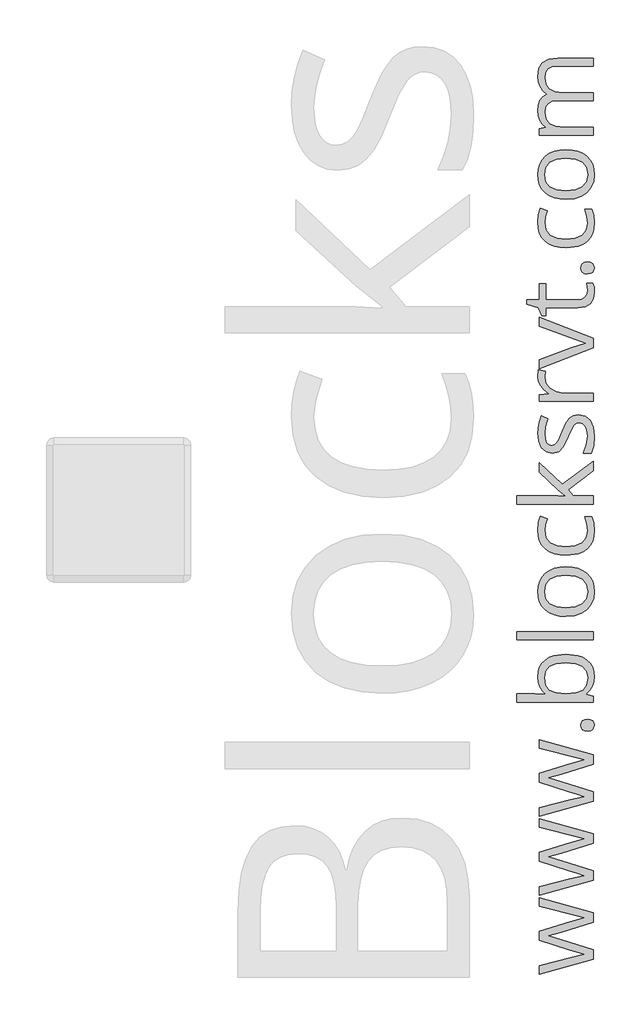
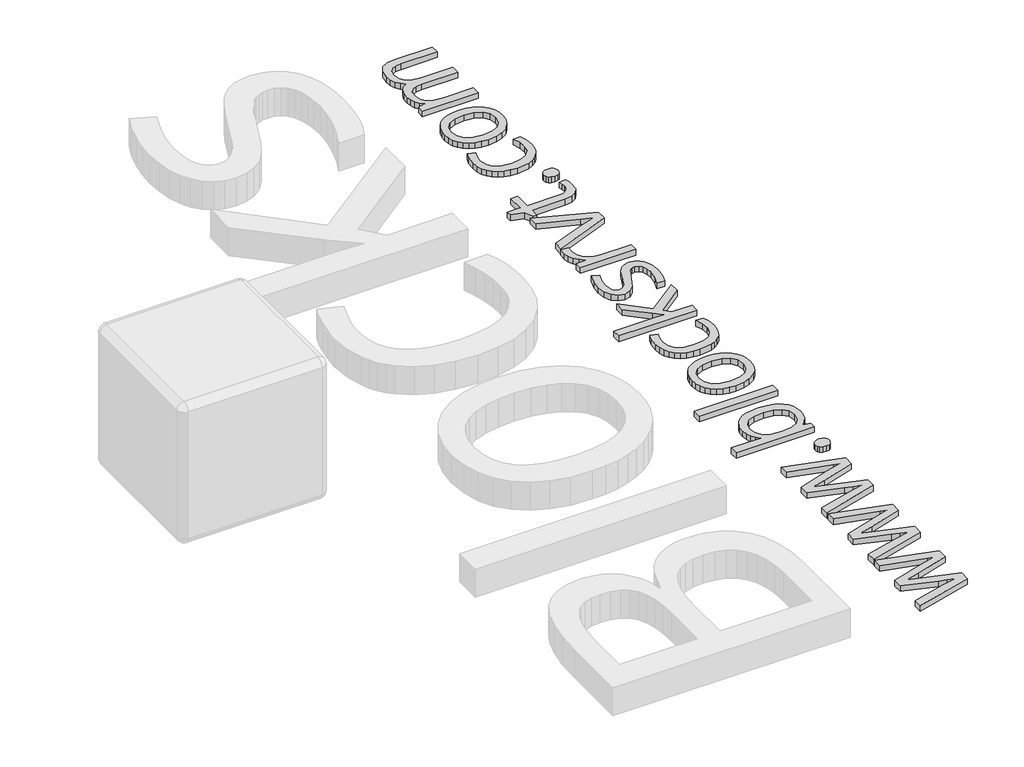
# One storey, part 14 of 14: 1 proxy.
"""IFC4 building model written with IfcOpenShell, lengths in millimetres."""

from ifc_helpers import new_model, si_unit, origin, origin_with_axes, place, context, project, spatial, polyline, outline, extrude, element, save

model = new_model("IFC4")

# Units and contexts
model_context = context("Model", 3, world=origin())
ifc_project = project(units=[si_unit("LENGTHUNIT", "METRE", prefix="MILLI")], contexts=[model_context])

# Site, building, storey
site = spatial("IfcSite", under=ifc_project)
building = spatial("IfcBuilding", under=site)
storey = spatial("IfcBuildingStorey", under=building, Name="PORTOBELLO - SHOWROOM", Elevation=0.0)

# Proxy
placement = place(None, origin())
element("IfcBuildingElementProxy", 1, Name="25mm OpenSans", ObjectType="25mm OpenSans", at=placement, inside=storey, context=model_context, shape_type="SweptSolid", body=[
    extrude(outline(polyline([(205164.8513303, 19114.8445561), (205055.039687, 19080.3644497), (205009.3160675, 19068.1464989), (205055.4144707, 19054.7292401), (205164.8513303, 19019.1997391), (205164.8513303, 18986.2937245), (204977.7592745, 18934.9483486), (204977.7592745, 18964.7811364), (205085.097345, 18992.515135), (205134.7936723, 19003.458821), (205109.6082032, 19010.8795395), (205085.097345, 19018.2253014), (204977.7592745, 19052.7054078), (204977.7592745, 19083.5875901), (205085.1723017, 19117.2431722), (205134.4938453, 19130.2856473), (205115.5297867, 19135.3827065), (204977.7592745, 19171.1370777), (204977.7592745, 19200.6700385), (205164.8513303, 19148.6500518), (205164.8513303, 19114.8445561)])), origin_with_axes(), (0.0, 0.0, 1.0), 20.0),
    extrude(outline(polyline([(205164.8513303, 19388.2867916), (205055.039687, 19353.8066851), (205009.3160675, 19341.5887344), (205055.4144707, 19328.1714755), (205164.8513303, 19292.6419746), (205164.8513303, 19259.7359599), (204977.7592745, 19208.390584), (204977.7592745, 19238.2233718), (205085.097345, 19265.9573705), (205134.7936723, 19276.9010564), (205109.6082032, 19284.321775), (205085.097345, 19291.6675368), (204977.7592745, 19326.1476432), (204977.7592745, 19357.0298255), (205085.1723017, 19390.6854077), (205134.4938453, 19403.7278827), (205115.5297867, 19408.8249419), (204977.7592745, 19444.5793132), (204977.7592745, 19474.1122739), (205164.8513303, 19422.0922872), (205164.8513303, 19388.2867916)])), origin_with_axes(), (0.0, 0.0, 1.0), 20.0),
    extrude(outline(polyline([(205164.8513303, 19661.729027), (205055.039687, 19627.2489205), (205009.3160675, 19615.0309698), (205055.4144707, 19601.613711), (205164.8513303, 19566.08421), (205164.8513303, 19533.1781954), (204977.7592745, 19481.8328195), (204977.7592745, 19511.6656072), (205085.097345, 19539.3996059), (205134.7936723, 19550.3432918), (205109.6082032, 19557.7640104), (205085.097345, 19565.1097722), (204977.7592745, 19599.5898786), (204977.7592745, 19630.4720609), (205085.1723017, 19664.1276431), (205134.4938453, 19677.1701181), (205115.5297867, 19682.2671773), (204977.7592745, 19718.0215486), (204977.7592745, 19747.5545093), (205164.8513303, 19695.5345226), (205164.8513303, 19661.729027)])), origin_with_axes(), (0.0, 0.0, 1.0), 20.0),
    extrude(outline(polyline([(205145.7373582, 19776.7126863), (205135.3277392, 19778.0150599), (205127.7852159, 19781.9221806), (205123.2034843, 19788.2653959), (205121.6762405, 19796.8760529), (205123.2034843, 19805.7396889), (205127.7852159, 19812.3921008), (205135.3277392, 19816.5522006), (205145.7373582, 19817.9389005), (205155.9408463, 19816.5240918), (205163.4646304, 19812.2796656), (205168.1025795, 19805.599145), (205169.6485625, 19796.8760529), (205164.0642844, 19782.4468779), (205156.6904138, 19778.1462342), (205145.7373582, 19776.7126863)])), origin_with_axes(), (0.0, 0.0, 1.0), 20.0),
    extrude(outline(polyline([(204972.9620423, 19965.0790069), (204974.5619005, 19982.6633927), (204979.3614751, 19998.1630438), (204987.3607661, 20011.5779602), (204998.5597735, 20022.9081419), (205012.6820942, 20031.9099795), (205029.4513254, 20038.3398635), (205070.9305186, 20043.4837707), (205112.5502558, 20038.2930155), (205129.4389492, 20031.8045716), (205143.7135259, 20022.7207501), (205155.0601044, 20011.3366932), (205163.1648034, 19997.9475432), (205168.0276227, 19982.5533), (205169.6485625, 19965.1539637), (205167.9339268, 19947.5110179), (205162.7900196, 19931.4609031), (205154.0856666, 19917.4533599), (205141.6896936, 19905.9381287), (205141.6896936, 19903.8393396), (205164.8513303, 19897.8427993), (205164.8513303, 19877.5295192), (204901.0035593, 19877.5295192), (204901.0035593, 19905.8631719), (204963.5924481, 19905.8631719), (205001.3706517, 19904.5139504), (204988.9418851, 19917.0692065), (204980.0641946, 19930.6738572), (204974.7375804, 19946.677124), (204972.9620423, 19965.0790069)]), holes=[polyline([(204996.9482033, 19961.106299), (205001.1832598, 19935.8365036), (205013.8884295, 19918.7932118), (205036.6190649, 19909.0956819), (205070.9305186, 19905.8631719), (205105.3825163, 19909.1893779), (205128.3848699, 19919.1679956), (205141.3430186, 19936.473636), (205145.6624015, 19961.7809098), (205140.8183213, 19984.8582201), (205126.2860808, 20001.1706835), (205102.6840732, 20010.8682135), (205070.6306916, 20014.1007235), (205038.1837871, 20010.8682135), (205015.2001727, 20001.1706835), (205001.5111956, 19984.6895674), (204996.9482033, 19961.106299)])]), origin_with_axes(), (0.0, 0.0, 1.0), 20.0),
    extrude(outline(polyline([(205164.8513303, 20120.7641832), (205164.8513303, 20092.4305305), (204901.0035593, 20092.4305305), (204901.0035593, 20120.7641832), (205164.8513303, 20120.7641832)])), origin_with_axes(), (0.0, 0.0, 1.0), 20.0),
    extrude(outline(polyline([(205071.1553889, 20345.7093993), (205093.0825816, 20344.2688242), (205112.4659295, 20339.9470989), (205129.3054325, 20332.7442234), (205143.6010908, 20322.6601977), (205154.9968597, 20310.0416968), (205163.1366946, 20295.2353957), (205168.0205955, 20278.2412943), (205169.6485625, 20259.0593927), (205166.659662, 20235.3636891), (205157.6929604, 20214.4976029), (205143.1419807, 20197.2669193), (205123.4002458, 20184.4774233), (205099.1704754, 20176.5507467), (205071.1553889, 20173.9085211), (205049.2375658, 20175.3373842), (205029.8823267, 20179.6239736), (205013.0896716, 20186.7682891), (204998.8596005, 20196.7703308), (204987.5294188, 20209.3115326), (204979.4364318, 20224.0733282), (204974.5806397, 20241.0557175), (204972.9620423, 20260.2587007), (204974.618118, 20278.8550027), (204979.5863453, 20295.4415267), (204987.8667242, 20310.0182728), (204999.4592545, 20322.585241), (205013.8767175, 20332.7020602), (205030.6318942, 20339.9283597), (205049.7247847, 20344.2641394), (205071.1553889, 20345.7093993)]), holes=[polyline([(205070.9305186, 20203.3665251), (205103.0869657, 20206.9457101), (205126.5484294, 20217.683265), (205140.8839085, 20235.3543195), (205145.6624015, 20259.7340035), (205140.9026477, 20284.1324266), (205126.6233862, 20301.8596987), (205103.1806617, 20312.6534712), (205070.9305186, 20316.2513953), (205039.0083114, 20312.6534712), (205015.7998267, 20301.8596987), (205001.6611091, 20284.0387307), (204996.9482033, 20259.3592197), (205001.595522, 20235.0263837), (205015.5374781, 20217.4958731), (205038.6803756, 20206.8988621), (205070.9305186, 20203.3665251)])]), origin_with_axes(), (0.0, 0.0, 1.0), 20.0),
    extrude(outline(polyline([(205169.6485625, 20471.1120473), (205168.0627587, 20451.7685202), (205163.3053473, 20434.7392828), (205155.3763282, 20420.0243352), (205144.2757016, 20407.6236774), (205130.2751855, 20397.7856035), (205113.6464983, 20390.7584079), (205072.5046104, 20385.1366515), (205050.0574053, 20386.5631722), (205030.313328, 20390.8427343), (205013.2723787, 20397.9753378), (204998.9345572, 20407.9609828), (204987.5715819, 20420.5841685), (204979.455171, 20435.6293943), (204974.5853245, 20453.0966602), (204972.9620423, 20472.9859661), (204975.7354421, 20500.2327459), (204982.2566797, 20521.5579422), (205005.7181434, 20512.788002), (204999.4592545, 20492.0624598), (204996.9482033, 20472.2363986), (205001.6376852, 20447.018136), (205015.7061308, 20429.0050912), (205039.1535401, 20418.1972644), (205071.9799132, 20414.5946554), (205103.4430103, 20418.1082532), (205126.6233862, 20428.6490466), (205140.9026477, 20446.0858613), (205145.6624015, 20470.287523), (205143.1326111, 20494.2549448), (205135.5432398, 20518.7845423), (205160.2040116, 20518.7845423), (205167.2874248, 20497.3843893), (205169.6485625, 20471.1120473)])), origin_with_axes(), (0.0, 0.0, 1.0), 20.0),
    extrude(outline(polyline([(205071.0054754, 20590.3682415), (205043.1215632, 20613.2300512), (204977.7592745, 20673.1954537), (204977.7592745, 20706.5512089), (205057.5132598, 20631.2946287), (205164.8513303, 20711.7981816), (205164.8513303, 20677.6928589), (205078.5011507, 20612.1056999), (205096.4907714, 20591.1178091), (205164.8513303, 20591.1178091), (205164.8513303, 20563.0839834), (204901.0035593, 20563.0839834), (204901.0035593, 20591.1178091), (205041.9972119, 20591.1178091), (205071.0054754, 20590.3682415)])), origin_with_axes(), (0.0, 0.0, 1.0), 20.0),
    extrude(outline(polyline([(205114.4054354, 20872.0557198), (205137.895008, 20867.1554221), (205155.2943443, 20852.4545288), (205166.0600079, 20828.9087388), (205169.6485625, 20797.4737504), (205166.6877707, 20764.1742128), (205157.8053955, 20739.0824397), (205131.2707049, 20739.0824397), (205141.8021287, 20768.2406167), (205145.6624015, 20798.223318), (205143.8821786, 20818.0400096), (205138.5415099, 20832.665946), (205129.5466996, 20841.6888652), (205116.8040515, 20844.6965049), (205106.5162372, 20842.3072584), (205097.839993, 20835.1395189), (205079.2507182, 20797.9234909), (205062.010665, 20760.5200711), (205045.3327874, 20743.9921071), (205022.9581966, 20738.5577425), (205002.2326544, 20743.2425395), (204986.3793011, 20757.2969307), (204976.316357, 20779.5216081), (204972.9620423, 20808.7172634), (204976.0727475, 20838.7561822), (204985.4048633, 20868.1579686), (205008.5665, 20857.9638502), (204999.8527775, 20830.9044623), (204996.9482033, 20806.5435176), (204998.5504039, 20788.7225495), (205003.3570057, 20775.8862055), (205010.9932249, 20768.1281816), (205021.0842778, 20765.5421736), (205034.0892745, 20769.4024464), (205044.2833929, 20781.8827458), (205058.3377841, 20814.9386739), (205070.66817, 20843.0193475), (205083.0735126, 20860.2500312), (205097.1279038, 20869.1042976), (205114.4054354, 20872.0557198)])), origin_with_axes(), (0.0, 0.0, 1.0), 20.0),
    extrude(outline(polyline([(204972.9620423, 21004.5043026), (204974.8359611, 21027.141242), (204999.4967329, 21023.1685341), (204996.9482033, 21002.4804702), (205001.6423699, 20981.1459044), (205015.7248699, 20963.1656532), (205036.8158264, 20950.9383329), (205062.5353623, 20946.8625594), (205164.8513303, 20946.8625594), (205164.8513303, 20918.5289067), (204977.7592745, 20918.5289067), (204977.7592745, 20941.9154137), (205011.3398999, 20945.1385541), (204995.0180669, 20958.1248116), (204982.9312904, 20971.898115), (204975.4543543, 20987.4703804), (204972.9620423, 21004.5043026)])), origin_with_axes(), (0.0, 0.0, 1.0), 20.0),
    extrude(outline(polyline([(205164.8513303, 21104.1218275), (204977.7592745, 21032.1633445), (204977.7592745, 21062.97057), (205088.6952691, 21103.8220005), (205139.2161207, 21120.0126591), (205101.7377442, 21133.429918), (204977.7592745, 21178.8537104), (204977.7592745, 21209.6609359), (205164.8513303, 21137.7024529), (205164.8513303, 21104.1218275)])), origin_with_axes(), (0.0, 0.0, 1.0), 20.0),
    extrude(outline(polyline([(205145.6624015, 21301.033218), (205144.5380502, 21315.7247416), (205142.2143909, 21326.9682545), (205164.4015898, 21326.9682545), (205168.1494274, 21313.2511687), (205169.6485625, 21296.9855533), (205166.0881167, 21272.9806531), (205155.4067794, 21255.8342958), (205137.6045505, 21245.5464815), (205112.6814301, 21242.11721), (205001.7454355, 21242.11721), (205001.7454355, 21214.9828654), (204987.7285226, 21214.9828654), (204975.5855286, 21241.9672965), (204934.5841847, 21254.0353337), (204934.5841847, 21270.5258194), (204977.7592745, 21270.5258194), (204977.7592745, 21325.619033), (205001.7454355, 21325.619033), (205001.7454355, 21270.5258194), (205110.9574248, 21270.5258194), (205125.7894923, 21272.5590214), (205136.7050695, 21278.6586272), (205143.4230685, 21288.3186787), (205145.6624015, 21301.033218)])), origin_with_axes(), (0.0, 0.0, 1.0), 20.0),
    extrude(outline(polyline([(205145.7373582, 21359.7993124), (205135.3277392, 21361.101686), (205127.7852159, 21365.0088068), (205123.2034843, 21371.352022), (205121.6762405, 21379.962679), (205123.2034843, 21388.8263151), (205127.7852159, 21395.4787269), (205135.3277392, 21399.6388267), (205145.7373582, 21401.0255266), (205155.9408463, 21399.6107179), (205163.4646304, 21395.3662918), (205168.1025795, 21388.6857712), (205169.6485625, 21379.962679), (205164.0642844, 21365.533504), (205156.6904138, 21361.2328603), (205145.7373582, 21359.7993124)])), origin_with_axes(), (0.0, 0.0, 1.0), 20.0),
    extrude(outline(polyline([(205169.6485625, 21536.0975958), (205168.0627587, 21516.7540687), (205163.3053473, 21499.7248313), (205155.3763282, 21485.0098837), (205144.2757016, 21472.6092259), (205130.2751855, 21462.771152), (205113.6464983, 21455.7439564), (205072.5046104, 21450.1221999), (205050.0574053, 21451.5487206), (205030.313328, 21455.8282828), (205013.2723787, 21462.9608863), (204998.9345572, 21472.9465313), (204987.5715819, 21485.569717), (204979.455171, 21500.6149428), (204974.5853245, 21518.0822086), (204972.9620423, 21537.9715146), (204975.7354421, 21565.2182944), (204982.2566797, 21586.5434906), (205005.7181434, 21577.7735505), (204999.4592545, 21557.0480083), (204996.9482033, 21537.2219471), (205001.6376852, 21512.0036844), (205015.7061308, 21493.9906397), (205039.1535401, 21483.1828129), (205071.9799132, 21479.5802039), (205103.4430103, 21483.0938017), (205126.6233862, 21493.6345951), (205140.9026477, 21511.0714098), (205145.6624015, 21535.2730715), (205143.1326111, 21559.2404933), (205135.5432398, 21583.7700908), (205160.2040116, 21583.7700908), (205167.2874248, 21562.3699378), (205169.6485625, 21536.0975958)])), origin_with_axes(), (0.0, 0.0, 1.0), 20.0),
    extrude(outline(polyline([(205071.1553889, 21789.6762916), (205093.0825816, 21788.2357165), (205112.4659295, 21783.9139912), (205129.3054325, 21776.7111157), (205143.6010908, 21766.62709), (205154.9968597, 21754.0085891), (205163.1366946, 21739.202288), (205168.0205955, 21722.2081866), (205169.6485625, 21703.026285), (205166.659662, 21679.3305814), (205157.6929604, 21658.4644953), (205143.1419807, 21641.2338116), (205123.4002458, 21628.4443156), (205099.1704754, 21620.517639), (205071.1553889, 21617.8754134), (205049.2375658, 21619.3042766), (205029.8823267, 21623.5908659), (205013.0896716, 21630.7351814), (204998.8596005, 21640.7372232), (204987.5294188, 21653.2784249), (204979.4364318, 21668.0402205), (204974.5806397, 21685.0226099), (204972.9620423, 21704.2255931), (204974.618118, 21722.821895), (204979.5863453, 21739.4084191), (204987.8667242, 21753.9851651), (204999.4592545, 21766.5521333), (205013.8767175, 21776.6689526), (205030.6318942, 21783.895252), (205049.7247847, 21788.2310317), (205071.1553889, 21789.6762916)]), holes=[polyline([(205070.9305186, 21647.3334174), (205103.0869657, 21650.9126024), (205126.5484294, 21661.6501573), (205140.8839085, 21679.3212118), (205145.6624015, 21703.7008958), (205140.9026477, 21728.0993189), (205126.6233862, 21745.826591), (205103.1806617, 21756.6203635), (205070.9305186, 21760.2182876), (205039.0083114, 21756.6203635), (205015.7998267, 21745.826591), (205001.6611091, 21728.005623), (204996.9482033, 21703.326112), (205001.595522, 21678.993276), (205015.5374781, 21661.4627654), (205038.6803756, 21650.8657544), (205070.9305186, 21647.3334174)])]), origin_with_axes(), (0.0, 0.0, 1.0), 20.0),
    extrude(outline(polyline([(205164.8513303, 22078.7095317), (205042.0721687, 22078.7095317), (205022.3304338, 22076.3109156), (205008.2291946, 22069.1150673), (204999.7684511, 22056.8596382), (204996.9482033, 22039.2822796), (205000.7803673, 22016.2143388), (205012.2768593, 22000.0798977), (205031.7375063, 21990.5791292), (205059.4621354, 21987.4122064), (205164.8513303, 21987.4122064), (205164.8513303, 21959.0035969), (205042.0721687, 21959.0035969), (205022.3304338, 21956.6049808), (205008.2291946, 21949.4091325), (204999.7684511, 21937.116225), (204996.9482033, 21919.4264313), (205000.9771288, 21896.2460554), (205013.0639052, 21880.2240494), (205034.3141447, 21870.8919336), (205065.8334594, 21867.7812284), (205164.8513303, 21867.7812284), (205164.8513303, 21839.4475757), (204977.7592745, 21839.4475757), (204977.7592745, 21862.5342557), (205001.7454355, 21867.1066176), (204989.6680286, 21878.1908475), (204980.5701527, 21891.2052137), (204974.8640699, 21906.7306312), (204972.9620423, 21923.9987932), (204974.9296571, 21944.0965727), (204980.8325014, 21960.3902969), (204990.6705752, 21972.8799659), (205004.4438786, 21981.5655796), (204991.4201427, 21993.193246), (204981.4321554, 22007.2382676), (204975.0795706, 22024.2815593), (204972.9620423, 22043.5548145), (204977.0659245, 22071.4106179), (204989.3775712, 22091.2647878), (205010.7215067, 22103.1548028), (205041.9222552, 22107.1181411), (205164.8513303, 22107.1181411), (205164.8513303, 22078.7095317)])), origin_with_axes(), (0.0, 0.0, 1.0), 20.0),
])

save(model, "model.ifc")
